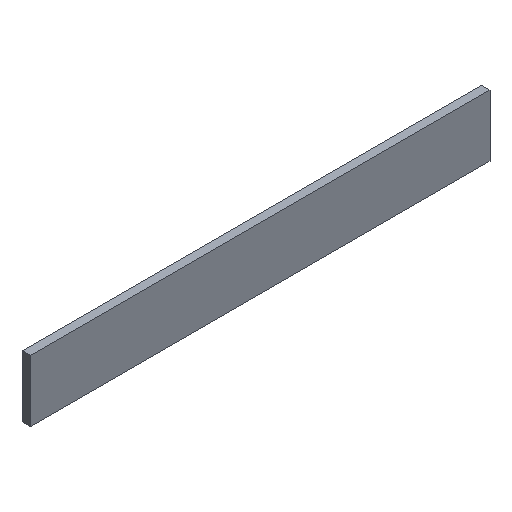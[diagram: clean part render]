
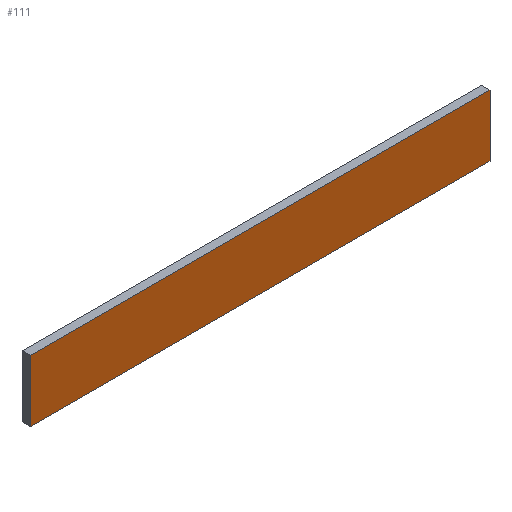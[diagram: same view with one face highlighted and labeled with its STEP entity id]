
A CAD part, isometric view. The second image highlights one B-rep face of the part: STEP entity #111.
In plain terms, the highlighted planar face has unit normal (0, -1, 0).
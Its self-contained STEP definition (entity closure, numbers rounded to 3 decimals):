
#9 = ORIENTED_EDGE ( 'NONE', *, *, #149, .F. ) ;
#16 = ORIENTED_EDGE ( 'NONE', *, *, #118, .F. ) ;
#37 = ORIENTED_EDGE ( 'NONE', *, *, #121, .F. ) ;
#46 = VECTOR ( 'NONE', #199, 1000. ) ;
#51 = VECTOR ( 'NONE', #205, 1000. ) ;
#52 = LINE ( 'NONE', #216, #46 ) ;
#55 = LINE ( 'NONE', #207, #51 ) ;
#56 = VECTOR ( 'NONE', #212, 1000. ) ;
#59 = LINE ( 'NONE', #214, #56 ) ;
#62 = VECTOR ( 'NONE', #222, 1000. ) ;
#67 = ORIENTED_EDGE ( 'NONE', *, *, #152, .F. ) ;
#73 = LINE ( 'NONE', #224, #62 ) ;
#80 = FACE_OUTER_BOUND ( 'NONE', #82, .T. ) ;
#82 = EDGE_LOOP ( 'NONE', ( #67, #37, #16, #9 ) ) ;
#87 = VERTEX_POINT ( 'NONE', #236 ) ;
#88 = VERTEX_POINT ( 'NONE', #233 ) ;
#92 = VERTEX_POINT ( 'NONE', #166 ) ;
#93 = VERTEX_POINT ( 'NONE', #230 ) ;
#111 = ADVANCED_FACE ( 'NONE', ( #80 ), #229, .T. ) ;
#118 = EDGE_CURVE ( 'NONE', #88, #87, #73, .T. ) ;
#121 = EDGE_CURVE ( 'NONE', #87, #93, #59, .T. ) ;
#142 = AXIS2_PLACEMENT_3D ( 'NONE', #172, #227, #226 ) ;
#149 = EDGE_CURVE ( 'NONE', #92, #88, #55, .T. ) ;
#152 = EDGE_CURVE ( 'NONE', #93, #92, #52, .T. ) ;
#166 = CARTESIAN_POINT ( 'NONE',  ( 0., 0., 0. ) ) ;
#172 = CARTESIAN_POINT ( 'NONE',  ( 0., 0., 0. ) ) ;
#199 = DIRECTION ( 'NONE',  ( 0., 0., 1. ) ) ;
#205 = DIRECTION ( 'NONE',  ( 1., 0., 0. ) ) ;
#207 = CARTESIAN_POINT ( 'NONE',  ( 0., 0., 0. ) ) ;
#212 = DIRECTION ( 'NONE',  ( -1., 0., 0. ) ) ;
#214 = CARTESIAN_POINT ( 'NONE',  ( 0., 0., -15. ) ) ;
#216 = CARTESIAN_POINT ( 'NONE',  ( 0., 0., 0. ) ) ;
#222 = DIRECTION ( 'NONE',  ( 0., 0., -1. ) ) ;
#224 = CARTESIAN_POINT ( 'NONE',  ( 112., 0., 0. ) ) ;
#226 = DIRECTION ( 'NONE',  ( 0., 0., -1. ) ) ;
#227 = DIRECTION ( 'NONE',  ( 0., -1., 0. ) ) ;
#229 = PLANE ( 'NONE',  #142 ) ;
#230 = CARTESIAN_POINT ( 'NONE',  ( 0., 0., -15. ) ) ;
#233 = CARTESIAN_POINT ( 'NONE',  ( 112., 0., 0. ) ) ;
#236 = CARTESIAN_POINT ( 'NONE',  ( 112., 0., -15. ) ) ;
